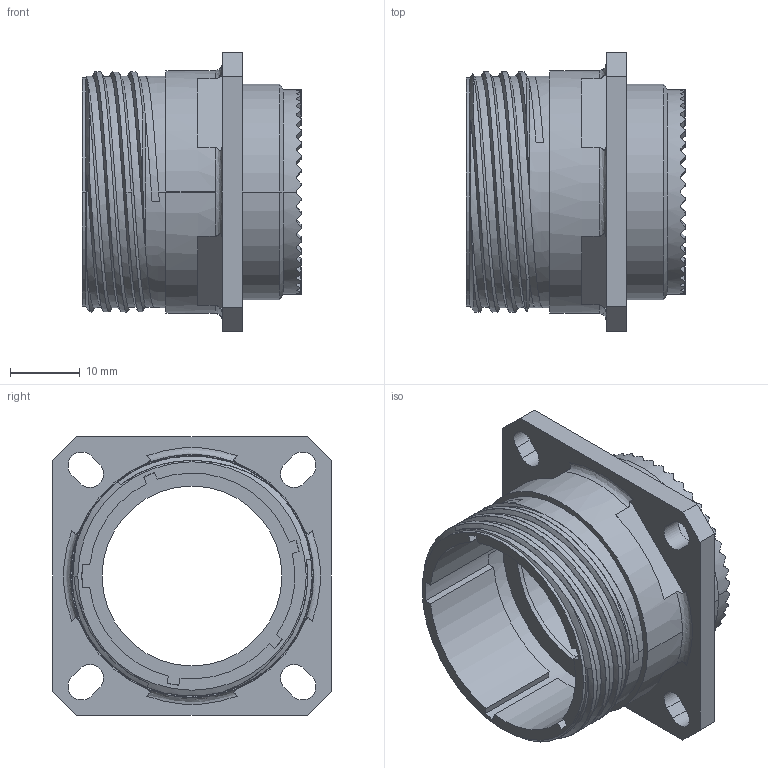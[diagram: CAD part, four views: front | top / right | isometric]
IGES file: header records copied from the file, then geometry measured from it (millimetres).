
Start section:  PTC IGES file: tv00_21_recp-shell.igs
Global section: file name: tv00_21_recp-shell.igs; native system: Creo Parametric by PTC Inc.; preprocessor: 2016260; author: t-nakamura; organization: Unknown; date: 20170622.211255; units: millimetre
Bounding box: 31.49 x 40.1 x 40.1 mm (x, y, z)
Surface area: 8979 mm2 (no closed solid volume)
Topology: 0 solids, 0 shells, 328 faces, 1928 edges, 1928 vertices
Faces by surface type: revolution 178, bspline 150
